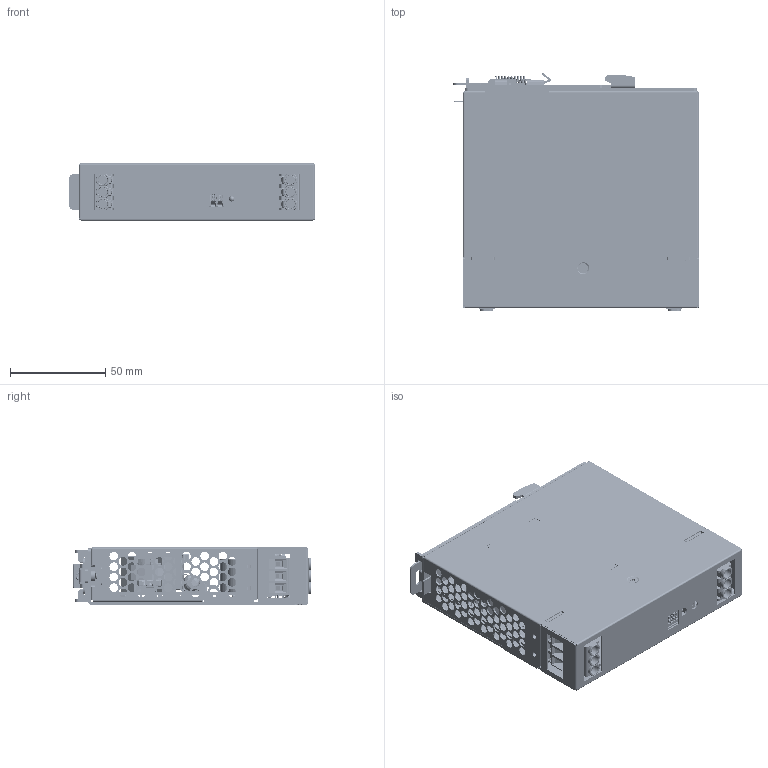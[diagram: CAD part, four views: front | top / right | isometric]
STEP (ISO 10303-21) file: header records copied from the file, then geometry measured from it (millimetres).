
FILE_DESCRIPTION((''),'2;1');
FILE_NAME('DRF-120W1GBA_ASM_7_ASM','2022-03-22T18:43:54',('EUNICE.HUANG'),(''),'CREO PARAMETRIC BY PTC INC, 2020454','CREO PARAMETRIC BY PTC INC, 2020454','');
FILE_SCHEMA(('CONFIG_CONTROL_DESIGN'));
Products named in the file (109): BOARD_1; 0311004001_1206-21_1_1; 0311004001_1206-21_2_1; 0311004001_1206-21_3_1; 0311004001_1206-21_4_1; 0311004001_1206-21_ASM_1_ASM; R193_ASM_1_ASM; R192_ASM_1_ASM; R191_ASM_1_ASM; 202840060007_SOD323_1_1; 202840060007_SOD323_2_1; 202840060007_SOD323_3_1; 202840060007_SOD323_4_1; 202840060007_SOD323_ASM_1_ASM; ZD102_ASM_1_ASM; 0311010132_0805-18_1_1; 0311010132_0805-18_2_1; 0311010132_0805-18_3_1; 0311010132_0805-18_4_1; 0311010132_0805-18_ASM_1_ASM; J101_ASM_1_ASM; 1532445202_1; C12_ASM_1_ASM; R135_ASM_1_ASM; R187_ASM_1_ASM; 211552520044_1; Q101_ASM_1_ASM; 242502801763_DPAK-NMOSFET_1_1; 242502801763_DPAK-NMOSFET_2_1; 242502801763_DPAK-NMOSFET_3_1; 242502801763_DPAK-NMOSFET_4_1; 242502801763_DPAK-NMOSFET_5_1; 242502801763_DPAK-NMOSFET_ASM_1_ASM; Q52_ASM_1_ASM; Q51_ASM_1_ASM; 1101379D38_1; CY1_ASM_1_ASM; 1511454102_IR0805-21-C_1_1; 1511454102_IR0805-21-C_2_1; 1511454102_IR0805-21-C_3_1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
Assembly tree (125 placements, depth 6):
  DRF-120W1GBA_ASM_7_ASM
    PCB_ASM_1_ASM
      BOARD_1
      R193_ASM_1_ASM
        0311004001_1206-21_ASM_1_ASM
          0311004001_1206-21_1_1
          0311004001_1206-21_2_1
          0311004001_1206-21_3_1
          0311004001_1206-21_4_1
      R192_ASM_1_ASM
        0311004001_1206-21_ASM_1_ASM
          0311004001_1206-21_1_1
          0311004001_1206-21_2_1
          0311004001_1206-21_3_1
          0311004001_1206-21_4_1
      R191_ASM_1_ASM
        0311004001_1206-21_ASM_1_ASM
          0311004001_1206-21_1_1
          0311004001_1206-21_2_1
          0311004001_1206-21_3_1
          0311004001_1206-21_4_1
      ZD102_ASM_1_ASM
        202840060007_SOD323_ASM_1_ASM
          202840060007_SOD323_1_1
          202840060007_SOD323_2_1
          202840060007_SOD323_3_1
          202840060007_SOD323_4_1
      J101_ASM_1_ASM
        0311010132_0805-18_ASM_1_ASM
          0311010132_0805-18_1_1
          0311010132_0805-18_2_1
          0311010132_0805-18_3_1
          0311010132_0805-18_4_1
      C12_ASM_1_ASM
        1532445202_1
      R135_ASM_1_ASM
        0311004001_1206-21_ASM_1_ASM
          0311004001_1206-21_1_1
          0311004001_1206-21_2_1
          0311004001_1206-21_3_1
          0311004001_1206-21_4_1
      R187_ASM_1_ASM
        0311004001_1206-21_ASM_1_ASM
          0311004001_1206-21_1_1
          0311004001_1206-21_2_1
          0311004001_1206-21_3_1
          0311004001_1206-21_4_1
      Q101_ASM_1_ASM
        211552520044_1
      Q52_ASM_1_ASM
        242502801763_DPAK-NMOSFET_ASM_1_ASM
          242502801763_DPAK-NMOSFET_1_1
          242502801763_DPAK-NMOSFET_2_1
          242502801763_DPAK-NMOSFET_3_1
          242502801763_DPAK-NMOSFET_4_1
          242502801763_DPAK-NMOSFET_5_1
      Q51_ASM_1_ASM
        242502801763_DPAK-NMOSFET_ASM_1_ASM
          242502801763_DPAK-NMOSFET_1_1
          242502801763_DPAK-NMOSFET_2_1
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Bounding box: 128.8 x 125.25 x 30 mm (x, y, z)
Volume: 109387.8 mm3; surface area: 171290 mm2
Topology: 100 solids, 100 shells, 7144 faces, 19416 edges, 12340 vertices
Faces by surface type: plane 3786, cylinder 2504, bspline 305, torus 283, sphere 154, cone 108, extrusion 4
Entity records: 195185 total; most frequent: CARTESIAN_POINT 57045, DIRECTION 28756, ORIENTED_EDGE 28550, EDGE_CURVE 14275, AXIS2_PLACEMENT_3D 9925, VERTEX_POINT 9084, VECTOR 8906, LINE 8902
